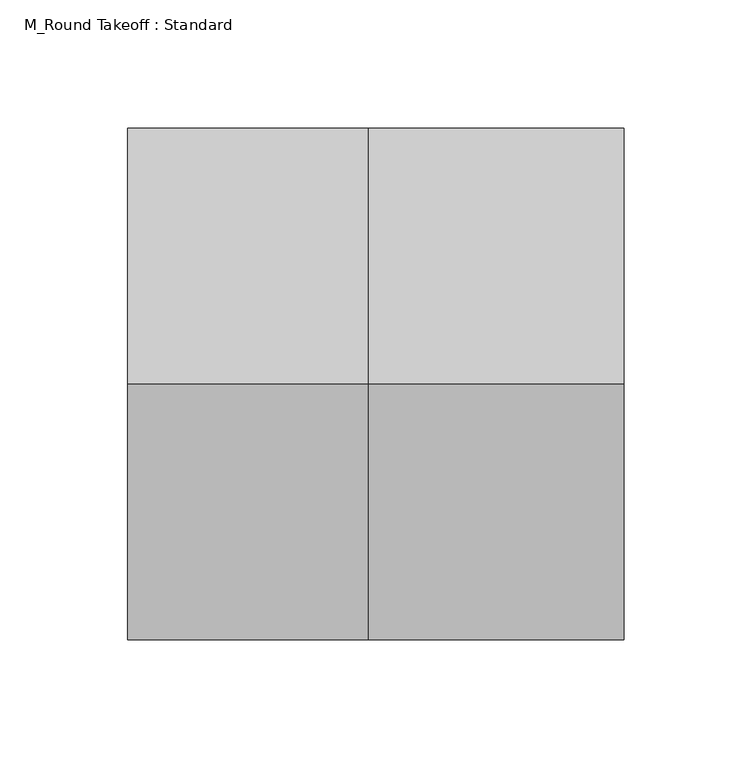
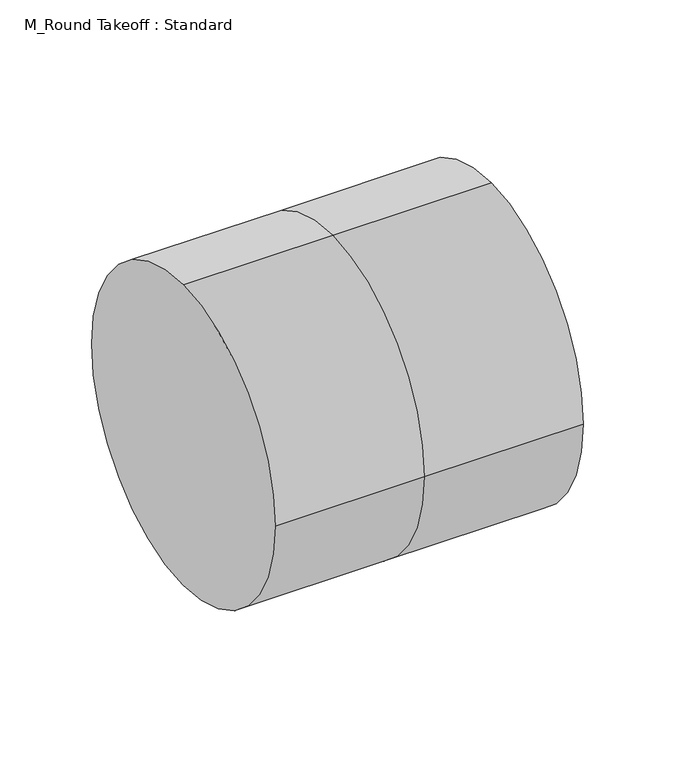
"""IFC4 building model written with IfcOpenShell, lengths in millimetres: duct fitting geometry, M_Round Takeoff : Standard."""

from ifc_helpers import new_model, si_unit, frame, origin, place, context, project, spatial, circle_curve, source, transform, mapped, element, save
from ifc_brep_helpers import plane_surface, cylinder_surface, advanced_brep


def m_round_takeoff_standard_7c91d29c(model_context):
    return source(origin(), model_context, "Body", "AdvancedBrep", [
        advanced_brep(
        [(-93.904, 0.0, 100.0), (-93.904, 100.0, 0.0), (-93.904, 0.0, -100.0), (-93.904, -100.0, 0.0), (0.0, 0.0, 100.0), (0.0, 100.0, 0.0), (0.0, 0.0, -100.0), (0.0, -100.0, 0.0), (100.0, 0.0, 100.0), (100.0, -100.0, 0.0), (100.0, 0.0, -100.0), (100.0, 100.0, 0.0)],
        [
            (0, 1, circle_curve(frame((-93.904, 0.0, 0.0), z_axis=(-1.0, 0.0, 0.0), x_axis=(0.0, 1.0, 0.0)), 100.0)),
            (1, 2, circle_curve(frame((-93.904, 0.0, 0.0), z_axis=(-1.0, 0.0, 0.0), x_axis=(0.0, 1.0, 0.0)), 100.0)),
            (2, 3, circle_curve(frame((-93.904, 0.0, 0.0), z_axis=(-1.0, 0.0, 0.0), x_axis=(0.0, 1.0, 0.0)), 100.0)),
            (3, 0, circle_curve(frame((-93.904, 0.0, 0.0), z_axis=(-1.0, 0.0, 0.0), x_axis=(0.0, 1.0, 0.0)), 100.0)),
            (0, 4),
            (4, 5, circle_curve(frame((0.0, 0.0, 0.0), z_axis=(-1.0, 0.0, 0.0), x_axis=(0.0, 1.0, 0.0)), 100.0)),
            (5, 1),
            (5, 6, circle_curve(frame((0.0, 0.0, 0.0), z_axis=(-1.0, 0.0, 0.0), x_axis=(0.0, 1.0, 0.0)), 100.0)),
            (6, 2),
            (6, 7, circle_curve(frame((0.0, 0.0, 0.0), z_axis=(-1.0, 0.0, 0.0), x_axis=(0.0, 1.0, 0.0)), 100.0)),
            (7, 3),
            (7, 4, circle_curve(frame((0.0, 0.0, 0.0), z_axis=(-1.0, 0.0, 0.0), x_axis=(0.0, 1.0, 0.0)), 100.0)),
            (8, 9, circle_curve(frame((100.0, 0.0, 0.0), z_axis=(1.0, 0.0, 0.0), x_axis=(0.0, 1.0, 0.0)), 100.0)),
            (9, 10, circle_curve(frame((100.0, 0.0, 0.0), z_axis=(1.0, 0.0, 0.0), x_axis=(0.0, 1.0, 0.0)), 100.0)),
            (10, 11, circle_curve(frame((100.0, 0.0, 0.0), z_axis=(1.0, 0.0, 0.0), x_axis=(0.0, 1.0, 0.0)), 100.0)),
            (11, 8, circle_curve(frame((100.0, 0.0, 0.0), z_axis=(1.0, 0.0, 0.0), x_axis=(0.0, 1.0, 0.0)), 100.0)),
            (11, 5),
            (4, 8),
            (10, 6),
            (9, 7),
        ],
        [
            plane_surface(frame((-93.904, 0.0, 0.0), z_axis=(-1.0, 0.0, 0.0), x_axis=(0.0, 0.0, 1.0))),
            cylinder_surface(frame((-93.904, 0.0, 0.0), z_axis=(-1.0, 0.0, 0.0), x_axis=(0.0, 1.0, 0.0)), 100.0),
            plane_surface(frame((100.0, 0.0, 0.0), z_axis=(1.0, 0.0, 0.0), x_axis=(0.0, 0.0, 1.0))),
            cylinder_surface(frame((0.0, 0.0, 0.0), z_axis=(-1.0, 0.0, 0.0), x_axis=(0.0, 1.0, 0.0)), 100.0),
        ],
        [
            (0, [[1, 2, 3, 4]]),
            (1, [[-1, 5, 6, 7]]),
            (1, [[-2, -7, 8, 9]]),
            (1, [[-3, -9, 10, 11]]),
            (1, [[-4, -11, 12, -5]]),
            (2, [[13, 14, 15, 16]]),
            (3, [[-16, 17, -6, 18]]),
            (3, [[-15, 19, -8, -17]]),
            (3, [[-14, 20, -10, -19]]),
            (3, [[-13, -18, -12, -20]]),
        ],
    ),
        advanced_brep(
        [(100.0, 0.0, 100.0), (100.0, -100.0, 0.0), (100.0, 0.0, -100.0), (100.0, 100.0, 0.0), (0.0, 100.0, 0.0), (0.0, 0.0, 100.0), (0.0, 0.0, -100.0), (0.0, -100.0, 0.0), (-93.904, 0.0, 100.0), (-93.904, 100.0, 0.0), (-93.904, 0.0, -100.0), (-93.904, -100.0, 0.0)],
        [
            (0, 1, circle_curve(frame((100.0, 0.0, 0.0), z_axis=(1.0, 0.0, 0.0), x_axis=(0.0, 1.0, 0.0)), 100.0)),
            (1, 2, circle_curve(frame((100.0, 0.0, 0.0), z_axis=(1.0, 0.0, 0.0), x_axis=(0.0, 1.0, 0.0)), 100.0)),
            (2, 3, circle_curve(frame((100.0, 0.0, 0.0), z_axis=(1.0, 0.0, 0.0), x_axis=(0.0, 1.0, 0.0)), 100.0)),
            (3, 0, circle_curve(frame((100.0, 0.0, 0.0), z_axis=(1.0, 0.0, 0.0), x_axis=(0.0, 1.0, 0.0)), 100.0)),
            (3, 4),
            (4, 5, circle_curve(frame((0.0, 0.0, 0.0), z_axis=(1.0, 0.0, 0.0), x_axis=(0.0, 1.0, 0.0)), 100.0)),
            (5, 0),
            (2, 6),
            (6, 4, circle_curve(frame((0.0, 0.0, 0.0), z_axis=(1.0, 0.0, 0.0), x_axis=(0.0, 1.0, 0.0)), 100.0)),
            (1, 7),
            (7, 6, circle_curve(frame((0.0, 0.0, 0.0), z_axis=(1.0, 0.0, 0.0), x_axis=(0.0, 1.0, 0.0)), 100.0)),
            (5, 7, circle_curve(frame((0.0, 0.0, 0.0), z_axis=(1.0, 0.0, 0.0), x_axis=(0.0, 1.0, 0.0)), 100.0)),
            (8, 9, circle_curve(frame((-93.904, 0.0, 0.0), z_axis=(-1.0, 0.0, 0.0), x_axis=(0.0, 1.0, 0.0)), 100.0)),
            (9, 10, circle_curve(frame((-93.904, 0.0, 0.0), z_axis=(-1.0, 0.0, 0.0), x_axis=(0.0, 1.0, 0.0)), 100.0)),
            (10, 11, circle_curve(frame((-93.904, 0.0, 0.0), z_axis=(-1.0, 0.0, 0.0), x_axis=(0.0, 1.0, 0.0)), 100.0)),
            (11, 8, circle_curve(frame((-93.904, 0.0, 0.0), z_axis=(-1.0, 0.0, 0.0), x_axis=(0.0, 1.0, 0.0)), 100.0)),
            (8, 5),
            (4, 9),
            (6, 10),
            (7, 11),
        ],
        [
            plane_surface(frame((100.0, 0.0, 0.0), z_axis=(1.0, 0.0, 0.0), x_axis=(0.0, 0.0, 1.0))),
            cylinder_surface(frame((0.0, 0.0, 0.0), z_axis=(-1.0, 0.0, 0.0), x_axis=(0.0, 1.0, 0.0)), 100.0),
            plane_surface(frame((-93.904, 0.0, 0.0), z_axis=(-1.0, 0.0, 0.0), x_axis=(0.0, 0.0, 1.0))),
            cylinder_surface(frame((-93.904, 0.0, 0.0), z_axis=(-1.0, 0.0, 0.0), x_axis=(0.0, 1.0, 0.0)), 100.0),
        ],
        [
            (0, [[1, 2, 3, 4]]),
            (1, [[-4, 5, 6, 7]]),
            (1, [[-3, 8, 9, -5]]),
            (1, [[-2, 10, 11, -8]]),
            (1, [[-1, -7, 12, -10]]),
            (2, [[13, 14, 15, 16]]),
            (3, [[-13, 17, -6, 18]]),
            (3, [[-14, -18, -9, 19]]),
            (3, [[-15, -19, -11, 20]]),
            (3, [[-16, -20, -12, -17]]),
        ],
    ),
        advanced_brep(
        [(-93.904, 0.0, 100.0), (-93.904, 100.0, 0.0), (-93.904, 0.0, -100.0), (-93.904, -100.0, 0.0), (0.0, 0.0, 100.0), (0.0, 100.0, 0.0), (0.0, 0.0, -100.0), (0.0, -100.0, 0.0), (100.0, 0.0, 100.0), (100.0, -100.0, 0.0), (100.0, 0.0, -100.0), (100.0, 100.0, 0.0)],
        [
            (0, 1, circle_curve(frame((-93.904, 0.0, 0.0), z_axis=(-1.0, 0.0, 0.0), x_axis=(0.0, 1.0, 0.0)), 100.0)),
            (1, 2, circle_curve(frame((-93.904, 0.0, 0.0), z_axis=(-1.0, 0.0, 0.0), x_axis=(0.0, 1.0, 0.0)), 100.0)),
            (2, 3, circle_curve(frame((-93.904, 0.0, 0.0), z_axis=(-1.0, 0.0, 0.0), x_axis=(0.0, 1.0, 0.0)), 100.0)),
            (3, 0, circle_curve(frame((-93.904, 0.0, 0.0), z_axis=(-1.0, 0.0, 0.0), x_axis=(0.0, 1.0, 0.0)), 100.0)),
            (0, 4),
            (4, 5, circle_curve(frame((0.0, 0.0, 0.0), z_axis=(-1.0, 0.0, 0.0), x_axis=(0.0, 1.0, 0.0)), 100.0)),
            (5, 1),
            (5, 6, circle_curve(frame((0.0, 0.0, 0.0), z_axis=(-1.0, 0.0, 0.0), x_axis=(0.0, 1.0, 0.0)), 100.0)),
            (6, 2),
            (6, 7, circle_curve(frame((0.0, 0.0, 0.0), z_axis=(-1.0, 0.0, 0.0), x_axis=(0.0, 1.0, 0.0)), 100.0)),
            (7, 3),
            (7, 4, circle_curve(frame((0.0, 0.0, 0.0), z_axis=(-1.0, 0.0, 0.0), x_axis=(0.0, 1.0, 0.0)), 100.0)),
            (8, 9, circle_curve(frame((100.0, 0.0, 0.0), z_axis=(1.0, 0.0, 0.0), x_axis=(0.0, 1.0, 0.0)), 100.0)),
            (9, 10, circle_curve(frame((100.0, 0.0, 0.0), z_axis=(1.0, 0.0, 0.0), x_axis=(0.0, 1.0, 0.0)), 100.0)),
            (10, 11, circle_curve(frame((100.0, 0.0, 0.0), z_axis=(1.0, 0.0, 0.0), x_axis=(0.0, 1.0, 0.0)), 100.0)),
            (11, 8, circle_curve(frame((100.0, 0.0, 0.0), z_axis=(1.0, 0.0, 0.0), x_axis=(0.0, 1.0, 0.0)), 100.0)),
            (11, 5),
            (4, 8),
            (10, 6),
            (9, 7),
        ],
        [
            plane_surface(frame((-93.904, 0.0, 0.0), z_axis=(-1.0, 0.0, 0.0), x_axis=(0.0, 0.0, 1.0))),
            cylinder_surface(frame((-93.904, 0.0, 0.0), z_axis=(-1.0, 0.0, 0.0), x_axis=(0.0, 1.0, 0.0)), 100.0),
            plane_surface(frame((100.0, 0.0, 0.0), z_axis=(1.0, 0.0, 0.0), x_axis=(0.0, 0.0, 1.0))),
            cylinder_surface(frame((0.0, 0.0, 0.0), z_axis=(-1.0, 0.0, 0.0), x_axis=(0.0, 1.0, 0.0)), 100.0),
        ],
        [
            (0, [[1, 2, 3, 4]]),
            (1, [[-1, 5, 6, 7]]),
            (1, [[-2, -7, 8, 9]]),
            (1, [[-3, -9, 10, 11]]),
            (1, [[-4, -11, 12, -5]]),
            (2, [[13, 14, 15, 16]]),
            (3, [[-16, 17, -6, 18]]),
            (3, [[-15, 19, -8, -17]]),
            (3, [[-14, 20, -10, -19]]),
            (3, [[-13, -18, -12, -20]]),
        ],
    ),
    ])


if __name__ == "__main__":
    model = new_model("IFC4")
    model_context = context("Model", 3, world=origin())
    ifc_project = project(units=[si_unit("LENGTHUNIT", "METRE", prefix="MILLI")], contexts=[model_context])
    site = spatial("IfcSite", under=ifc_project)
    building = spatial("IfcBuilding", under=site)
    placement = place(None, origin())
    m_round_takeoff_standard_shape = m_round_takeoff_standard_7c91d29c(model_context)
    element("IfcDuctFitting", 1, ObjectType="M_Round Takeoff : Standard", at=placement, inside=building, context=model_context, shape_type="MappedRepresentation", body=[
        mapped(m_round_takeoff_standard_shape, transform((0.0, 0.0, 0.0), x_axis=(1.0, 0.0, 0.0), y_axis=(0.0, 1.0, 0.0), z_axis=(0.0, 0.0, 1.0))),
    ])
    save(model, "model.ifc")
